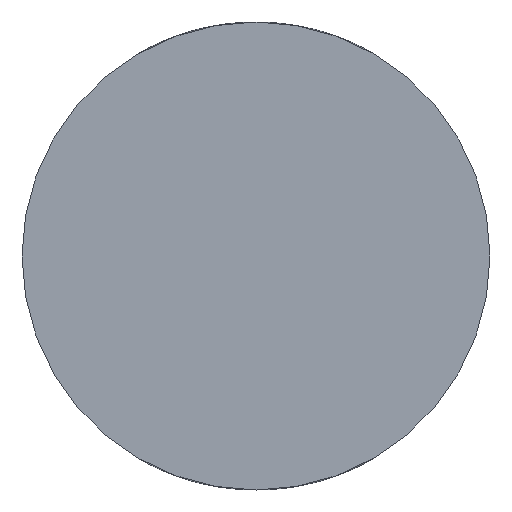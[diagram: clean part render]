
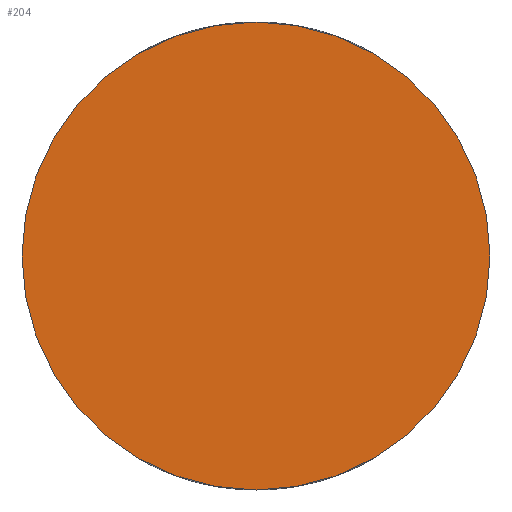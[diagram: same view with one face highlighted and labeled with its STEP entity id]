
A CAD part, left-side view. The second image highlights one B-rep face of the part: STEP entity #204.
In plain terms, the highlighted planar face has unit normal (-1, 0, 0).
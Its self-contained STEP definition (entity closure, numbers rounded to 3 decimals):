
#15=PLANE('',#227);
#26=FACE_OUTER_BOUND('',#37,.T.);
#37=EDGE_LOOP('',(#192));
#78=CIRCLE('',#222,3.5);
#92=VERTEX_POINT('',#358);
#115=EDGE_CURVE('',#92,#92,#78,.T.);
#192=ORIENTED_EDGE('',*,*,#115,.T.);
#204=ADVANCED_FACE('',(#26),#15,.T.);
#222=AXIS2_PLACEMENT_3D('',#360,#240,#241);
#227=AXIS2_PLACEMENT_3D('',#593,#254,#255);
#240=DIRECTION('center_axis',(-1.,0.,0.));
#241=DIRECTION('ref_axis',(0.,0.,-1.));
#254=DIRECTION('center_axis',(-1.,0.,0.));
#255=DIRECTION('ref_axis',(0.,0.,1.));
#358=CARTESIAN_POINT('',(-75.,0.,3.5));
#360=CARTESIAN_POINT('Origin',(-75.,0.,0.));
#593=CARTESIAN_POINT('Origin',(-75.,0.,0.));
